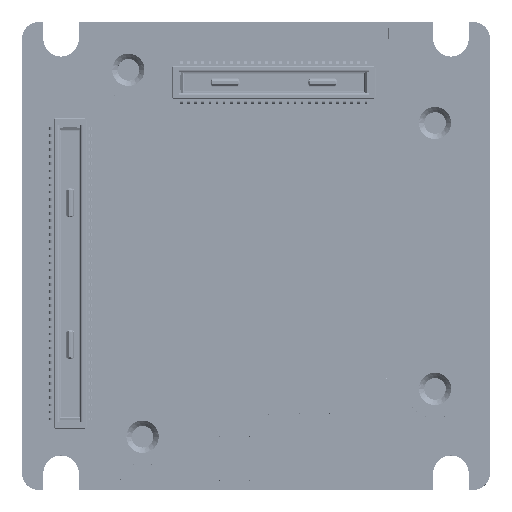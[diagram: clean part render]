
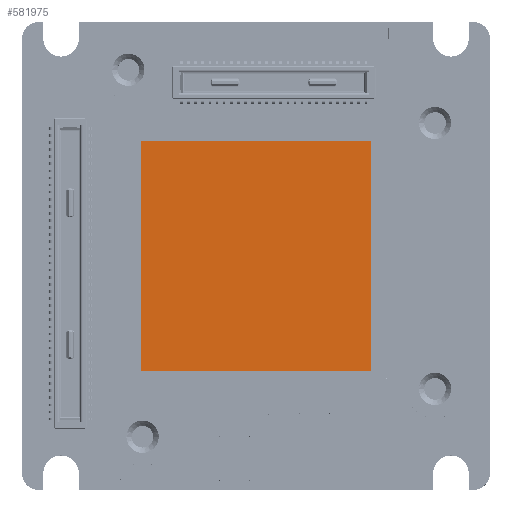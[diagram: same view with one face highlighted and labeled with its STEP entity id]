
A CAD part, top view. The second image highlights one B-rep face of the part: STEP entity #581975.
In plain terms, the highlighted planar face has unit normal (0, 0, 1).
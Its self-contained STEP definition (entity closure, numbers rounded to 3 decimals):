
#79689 = EDGE_CURVE ( 'NONE', #711199, #512867, #416245, .T. ) ;
#86274 = EDGE_CURVE ( 'NONE', #512867, #329180, #356795, .T. ) ;
#91838 = LINE ( 'NONE', #279427, #673038 ) ;
#206222 = DIRECTION ( 'NONE',  ( 0., -1., 0. ) ) ;
#223560 = VECTOR ( 'NONE', #271736, 1000. ) ;
#266558 = ORIENTED_EDGE ( 'NONE', *, *, #443363, .F. ) ;
#269888 = ORIENTED_EDGE ( 'NONE', *, *, #797910, .F. ) ;
#271736 = DIRECTION ( 'NONE',  ( -1., 0., 0. ) ) ;
#279427 = CARTESIAN_POINT ( 'NONE',  ( 6.5, 6.5, 6.162 ) ) ;
#285259 = CARTESIAN_POINT ( 'NONE',  ( 0., 0., 6.162 ) ) ;
#290255 = DIRECTION ( 'NONE',  ( 0., 1., 0. ) ) ;
#307298 = ORIENTED_EDGE ( 'NONE', *, *, #79689, .F. ) ;
#329180 = VERTEX_POINT ( 'NONE', #535332 ) ;
#330124 = CARTESIAN_POINT ( 'NONE',  ( 6.5, -6.5, 6.162 ) ) ;
#356795 = LINE ( 'NONE', #723287, #705094 ) ;
#358361 = CARTESIAN_POINT ( 'NONE',  ( 6.5, 6.5, 6.162 ) ) ;
#398199 = VECTOR ( 'NONE', #541848, 1000. ) ;
#408433 = DIRECTION ( 'NONE',  ( 0., -1., 0. ) ) ;
#416245 = LINE ( 'NONE', #330124, #223560 ) ;
#443363 = EDGE_CURVE ( 'NONE', #706433, #711199, #91838, .T. ) ;
#485302 = ORIENTED_EDGE ( 'NONE', *, *, #86274, .F. ) ;
#512867 = VERTEX_POINT ( 'NONE', #567755 ) ;
#522770 = FACE_OUTER_BOUND ( 'NONE', #595724, .T. ) ;
#530956 = DIRECTION ( 'NONE',  ( 0., 0., -1. ) ) ;
#535332 = CARTESIAN_POINT ( 'NONE',  ( -6.5, 6.5, 6.162 ) ) ;
#541848 = DIRECTION ( 'NONE',  ( 1., 0., 0. ) ) ;
#567755 = CARTESIAN_POINT ( 'NONE',  ( -6.5, -6.5, 6.162 ) ) ;
#581975 = ADVANCED_FACE ( 'NONE', ( #522770 ), #589255, .F. ) ;
#589255 = PLANE ( 'NONE',  #823559 ) ;
#595724 = EDGE_LOOP ( 'NONE', ( #307298, #266558, #269888, #485302 ) ) ;
#616520 = CARTESIAN_POINT ( 'NONE',  ( -6.5, 6.5, 6.162 ) ) ;
#629560 = CARTESIAN_POINT ( 'NONE',  ( 6.5, -6.5, 6.162 ) ) ;
#673038 = VECTOR ( 'NONE', #408433, 1000. ) ;
#705094 = VECTOR ( 'NONE', #290255, 1000. ) ;
#706433 = VERTEX_POINT ( 'NONE', #358361 ) ;
#711199 = VERTEX_POINT ( 'NONE', #629560 ) ;
#723287 = CARTESIAN_POINT ( 'NONE',  ( -6.5, -6.5, 6.162 ) ) ;
#741386 = LINE ( 'NONE', #616520, #398199 ) ;
#797910 = EDGE_CURVE ( 'NONE', #329180, #706433, #741386, .T. ) ;
#823559 = AXIS2_PLACEMENT_3D ( 'NONE', #285259, #530956, #206222 ) ;
